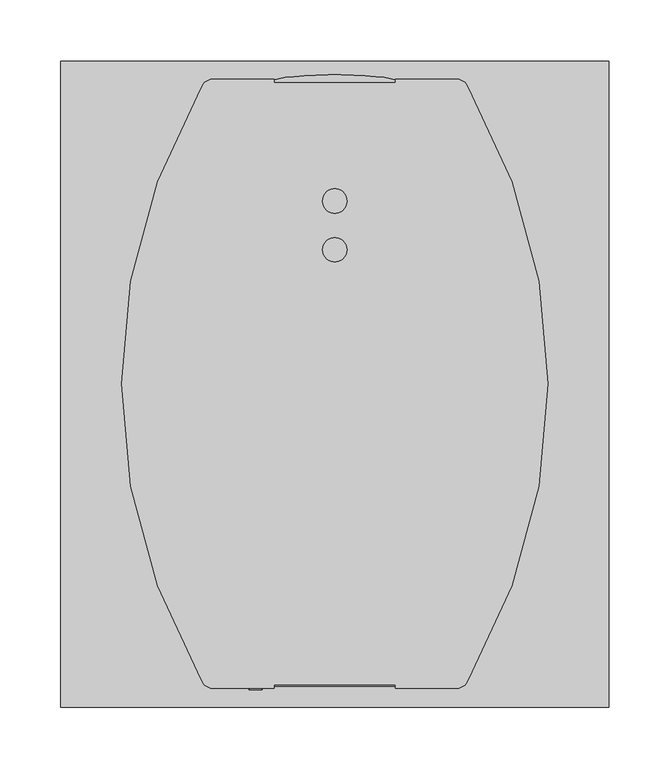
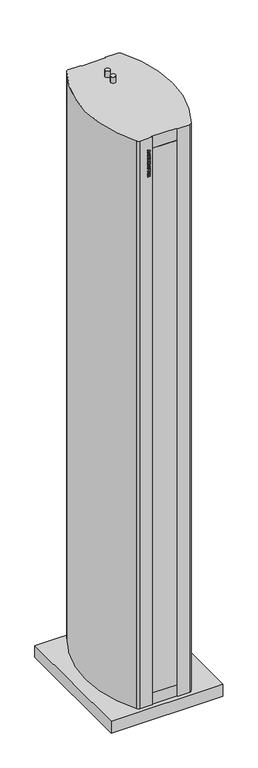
"""IFC4 building model written with IfcOpenShell, lengths in millimetres: proxy geometry, ADSK_Завеса дизайнерская_Водяная : KVC-S25W45-31."""

from ifc_helpers import new_model, si_unit, point, frame, origin, origin_with_axes, place, context, project, spatial, polyline, circle_curve, ellipse_curve, trimmed, outline, extrude, faceted_brep, source, transform, mapped, element, save
from ifc_brep_helpers import plane_surface, cylinder_surface, extruded_surface, advanced_brep


def mechanical_equipment_2b375cc0(model_context):
    return source(origin(), model_context, "Body", "SolidModel", [
        extrude(outline(polyline([(2300.0784314, -70.0), (2300.0784314, -60.0), (2303.2156863, -60.0), (2303.2156863, -61.7647059), (2304.9865196, -63.7745098), (2306.8186275, -60.0), (2310.6666667, -60.0), (2307.192402, -66.2775735), (2310.4705882, -70.0), (2306.1997549, -70.0), (2303.2156863, -66.2224265), (2303.2156863, -70.0), (2300.0784314, -70.0)])), frame((0.0, -251.0, 0.0), z_axis=(0.0, 1.0, 0.0), x_axis=(0.0, 0.0, 1.0)), (0.0, 0.0, 1.0), 1.0),
        extrude(outline(polyline([(2317.6642157, -61.5686275), (2318.1176471, -60.0), (2321.4509804, -60.0), (2318.0778186, -70.0), (2314.0398284, -70.0), (2310.6666667, -60.0), (2314.0, -60.0), (2314.4319853, -61.5686275), (2317.6642157, -61.5686275)]), holes=[polyline([(2317.0698529, -63.9215686), (2315.0814951, -63.9215686), (2316.0588235, -67.4540441), (2317.0698529, -63.9215686)])]), frame((0.0, -251.0, 0.0), z_axis=(0.0, 1.0, 0.0), x_axis=(0.0, 0.0, 1.0)), (0.0, 0.0, 1.0), 1.0),
        extrude(outline(polyline([(2322.4313725, -70.0), (2322.4313725, -60.0), (2330.2745098, -60.0), (2330.2745098, -62.3529412), (2325.5686275, -62.3529412), (2325.5686275, -70.0), (2322.4313725, -70.0)])), frame((0.0, -251.0, 0.0), z_axis=(0.0, 1.0, 0.0), x_axis=(0.0, 0.0, 1.0)), (0.0, 0.0, 1.0), 1.0),
        extrude(outline(polyline([(2337.6642157, -61.5686275), (2338.1176471, -60.0), (2341.4509804, -60.0), (2338.0778186, -70.0), (2334.0398284, -70.0), (2330.6666667, -60.0), (2334.0, -60.0), (2334.4319853, -61.5686275), (2337.6642157, -61.5686275)]), holes=[polyline([(2337.0698529, -63.9215686), (2335.0814951, -63.9215686), (2336.0588235, -67.4540441), (2337.0698529, -63.9215686)])]), frame((0.0, -251.0, 0.0), z_axis=(0.0, 1.0, 0.0), x_axis=(0.0, 0.0, 1.0)), (0.0, 0.0, 1.0), 1.0),
        extrude(outline(polyline([(2341.8431373, -63.3394608), (2342.9491422, -60.8026961), (2346.4601716, -59.8039216), (2348.8560049, -60.2297794), (2350.3342525, -61.4813113), (2350.8627451, -63.28125), (2350.4675245, -64.7870711), (2349.2022059, -65.9129902), (2346.3223039, -66.8106618), (2346.1905637, -68.4313725), (2346.9641544, -68.1050858), (2347.3333333, -67.0588235), (2350.4705882, -67.2395833), (2349.2925858, -69.4883578), (2346.4172794, -70.1960784), (2343.9969363, -69.8039216), (2342.6749387, -68.7285539), (2342.2352941, -67.276348), (2343.1023284, -65.3492647), (2345.9761029, -64.1237745), (2347.7254902, -62.8186275), (2347.4114583, -62.0818015), (2346.5183824, -61.7647059), (2345.3204657, -62.3958333), (2344.9803922, -63.5294118), (2341.8431373, -63.3394608)])), frame((0.0, -251.0, 0.0), z_axis=(0.0, 1.0, 0.0), x_axis=(0.0, 0.0, 1.0)), (0.0, 0.0, 1.0), 1.0),
        extrude(outline(polyline([(2352.4313725, -70.0), (2352.4313725, -60.0), (2355.5686275, -60.0), (2355.5686275, -64.1176471), (2358.9019608, -64.1176471), (2358.9019608, -60.0), (2362.0392157, -60.0), (2362.0392157, -70.0), (2358.9019608, -70.0), (2358.9019608, -66.4705882), (2355.5686275, -66.4705882), (2355.5686275, -70.0), (2352.4313725, -70.0)])), frame((0.0, -251.0, 0.0), z_axis=(0.0, 1.0, 0.0), x_axis=(0.0, 0.0, 1.0)), (0.0, 0.0, 1.0), 1.0),
        extrude(outline(polyline([(2364.0, -70.0), (2364.0, -60.0), (2366.9411765, -60.0), (2366.9411765, -65.4901961), (2370.6666667, -60.0), (2373.6078431, -60.0), (2373.6078431, -70.0), (2370.6666667, -70.0), (2370.6666667, -64.4730392), (2366.9197304, -70.0), (2364.0, -70.0)])), frame((0.0, -251.0, 0.0), z_axis=(0.0, 1.0, 0.0), x_axis=(0.0, 0.0, 1.0)), (0.0, 0.0, 1.0), 1.0),
        extrude(outline(polyline([(-60.0, -251.0), (-70.0, -251.0), (-70.0, -250.0), (-60.0, -250.0), (-60.0, -251.0)])), frame((0.0, 0.0, 2375.7647059), z_axis=(0.0, 0.0, 1.0), x_axis=(1.0, 0.0, 0.0)), (0.0, 0.0, 1.0), 3.1372549),
        extrude(outline(polyline([(2381.0588235, -70.0), (2381.0588235, -60.0), (2384.1960784, -60.0), (2384.1960784, -61.7647059), (2385.9669118, -63.7745098), (2387.7990196, -60.0), (2391.6470588, -60.0), (2388.1727941, -66.2775735), (2391.4509804, -70.0), (2387.1801471, -70.0), (2384.1960784, -66.2224265), (2384.1960784, -70.0), (2381.0588235, -70.0)])), frame((0.0, -251.0, 0.0), z_axis=(0.0, 1.0, 0.0), x_axis=(0.0, 0.0, 1.0)), (0.0, 0.0, 1.0), 1.0),
        extrude(outline(polyline([(2392.2352941, -64.9938725), (2392.9261642, -62.0603554), (2394.7291667, -60.346201), (2397.5386029, -59.8039216), (2400.3250613, -60.4304534), (2402.036152, -62.1859681), (2402.627451, -65.0765931), (2401.2732843, -68.8495711), (2397.4129902, -70.1960784), (2393.6032475, -68.8250613), (2392.2352941, -64.9938725)]), holes=[polyline([(2395.372549, -64.9938725), (2395.9301471, -67.1813725), (2397.4068627, -67.8431373), (2398.9295343, -67.1920956), (2399.4901961, -65.1286765), (2398.9525123, -62.8048407), (2397.4344363, -62.1568627), (2395.9270833, -62.8186275), (2395.372549, -64.9938725)])]), frame((0.0, -251.0, 0.0), z_axis=(0.0, 1.0, 0.0), x_axis=(0.0, 0.0, 1.0)), (0.0, 0.0, 1.0), 1.0),
        extrude(outline(polyline([(2403.4117647, -70.0), (2407.1280637, -60.0), (2410.4583333, -60.0), (2414.1960784, -70.0), (2410.8627451, -70.0), (2408.8039216, -62.8033088), (2406.7420343, -70.0), (2403.4117647, -70.0)])), frame((0.0, -251.0, 0.0), z_axis=(0.0, 1.0, 0.0), x_axis=(0.0, 0.0, 1.0)), (0.0, 0.0, 1.0), 1.0),
        extrude(outline(polyline([(225.0, 265.0), (225.0, -265.0), (-225.0, -265.0), (-225.0, 265.0), (225.0, 265.0)])), origin_with_axes(), (0.0, 0.0, 1.0), 50.0),
        advanced_brep(
        [(-50.0, 250.0, 2464.0), (-100.0, 250.0, 2464.0), (-109.6523684, 242.6137681, 2464.0), (-109.6523684, -242.6137681, 2464.0), (-100.0, -250.0, 2464.0), (-50.0, -250.0, 2464.0), (-50.0, -247.0, 2464.0), (50.0, -247.0, 2464.0), (50.0, -250.0, 2464.0), (100.0, -250.0, 2464.0), (109.6523684, -242.6137681, 2464.0), (109.6523684, 242.6137681, 2464.0), (100.0, 250.0, 2464.0), (50.0, 250.0, 2464.0), (50.0, 247.0, 2464.0), (-50.0, 247.0, 2464.0), (10.0, 150.0, 2464.0), (-10.0, 150.0, 2464.0), (10.0, 110.0, 2464.0), (-10.0, 110.0, 2464.0), (-50.0, 250.0, 50.0), (-50.0, 247.0, 50.0), (50.0, 247.0, 50.0), (50.0, 250.0, 50.0), (100.0, 250.0, 50.0), (109.6523684, 242.6137681, 50.0), (109.6523684, -242.6137681, 50.0), (100.0, -250.0, 50.0), (50.0, -250.0, 50.0), (50.0, -247.0, 50.0), (-50.0, -247.0, 50.0), (-50.0, -250.0, 50.0), (-100.0, -250.0, 50.0), (-109.6523684, -242.6137681, 50.0), (-109.6523684, 242.6137681, 50.0), (-100.0, 250.0, 50.0), (-10.0, 150.0, 2489.0), (10.0, 150.0, 2489.0), (-10.0, 110.0, 2489.0), (10.0, 110.0, 2489.0)],
        [
            (0, 1),
            (1, 2, circle_curve(frame((-100.0, 240.0, 2464.0), z_axis=(0.0, 0.0, 1.0), x_axis=(1.0, 0.0, 0.0)), 10.0)),
            (2, 3, circle_curve(frame((308.0454594, 0.0, 2464.0), z_axis=(0.0, 0.0, 1.0), x_axis=(1.0, 0.0, 0.0)), 483.0454594)),
            (3, 4, circle_curve(frame((-100.0, -240.0, 2464.0), z_axis=(0.0, 0.0, 1.0), x_axis=(1.0, 0.0, 0.0)), 10.0)),
            (4, 5),
            (5, 6),
            (6, 7),
            (7, 8),
            (8, 9),
            (9, 10, circle_curve(frame((100.0, -240.0, 2464.0), z_axis=(0.0, 0.0, 1.0), x_axis=(1.0, 0.0, 0.0)), 10.0)),
            (10, 11, circle_curve(frame((-308.0454594, 0.0, 2464.0), z_axis=(0.0, 0.0, 1.0), x_axis=(1.0, 0.0, 0.0)), 483.0454594)),
            (11, 12, circle_curve(frame((100.0, 240.0, 2464.0), z_axis=(0.0, 0.0, 1.0), x_axis=(1.0, 0.0, 0.0)), 10.0)),
            (12, 13),
            (13, 14),
            (14, 15),
            (15, 0),
            (16, 17, circle_curve(frame((0.0, 150.0, 2464.0), z_axis=(0.0, 0.0, -1.0), x_axis=(1.0, 0.0, 0.0)), 10.0)),
            (17, 16, circle_curve(frame((0.0, 150.0, 2464.0), z_axis=(0.0, 0.0, -1.0), x_axis=(1.0, 0.0, 0.0)), 10.0)),
            (18, 19, circle_curve(frame((0.0, 110.0, 2464.0), z_axis=(0.0, 0.0, -1.0), x_axis=(1.0, 0.0, 0.0)), 10.0)),
            (19, 18, circle_curve(frame((0.0, 110.0, 2464.0), z_axis=(0.0, 0.0, -1.0), x_axis=(1.0, 0.0, 0.0)), 10.0)),
            (20, 21),
            (21, 22),
            (22, 23),
            (23, 24),
            (24, 25, circle_curve(frame((100.0, 240.0, 50.0), z_axis=(0.0, 0.0, -1.0), x_axis=(1.0, 0.0, 0.0)), 10.0)),
            (25, 26, circle_curve(frame((-308.0454594, 0.0, 50.0), z_axis=(0.0, 0.0, -1.0), x_axis=(1.0, 0.0, 0.0)), 483.0454594)),
            (26, 27, circle_curve(frame((100.0, -240.0, 50.0), z_axis=(0.0, 0.0, -1.0), x_axis=(1.0, 0.0, 0.0)), 10.0)),
            (27, 28),
            (28, 29),
            (29, 30),
            (30, 31),
            (31, 32),
            (32, 33, circle_curve(frame((-100.0, -240.0, 50.0), z_axis=(0.0, 0.0, -1.0), x_axis=(1.0, 0.0, 0.0)), 10.0)),
            (33, 34, circle_curve(frame((308.0454594, 0.0, 50.0), z_axis=(0.0, 0.0, -1.0), x_axis=(1.0, 0.0, 0.0)), 483.0454594)),
            (34, 35, circle_curve(frame((-100.0, 240.0, 50.0), z_axis=(0.0, 0.0, -1.0), x_axis=(1.0, 0.0, 0.0)), 10.0)),
            (35, 20),
            (0, 20),
            (35, 1),
            (34, 2),
            (33, 3),
            (32, 4),
            (8, 28),
            (27, 9),
            (31, 5),
            (30, 6),
            (29, 7),
            (12, 24),
            (23, 13),
            (22, 14),
            (21, 15),
            (36, 37, circle_curve(frame((0.0, 150.0, 2489.0), z_axis=(0.0, 0.0, 1.0), x_axis=(1.0, 0.0, 0.0)), 10.0)),
            (37, 36, circle_curve(frame((0.0, 150.0, 2489.0), z_axis=(0.0, 0.0, 1.0), x_axis=(1.0, 0.0, 0.0)), 10.0)),
            (38, 39, circle_curve(frame((0.0, 110.0, 2489.0), z_axis=(0.0, 0.0, 1.0), x_axis=(1.0, 0.0, 0.0)), 10.0)),
            (39, 38, circle_curve(frame((0.0, 110.0, 2489.0), z_axis=(0.0, 0.0, 1.0), x_axis=(1.0, 0.0, 0.0)), 10.0)),
            (36, 17),
            (16, 37),
            (38, 19),
            (18, 39),
            (26, 10),
            (25, 11),
        ],
        [
            plane_surface(frame((-93.2688019, 250.0, 2464.0), z_axis=(0.0, 0.0, 1.0), x_axis=(-1.0, 0.0, 0.0))),
            plane_surface(frame((-93.2688019, 250.0, 50.0), z_axis=(0.0, 0.0, -1.0), x_axis=(1.0, 0.0, 0.0))),
            plane_surface(frame((-50.0, 250.0, 2464.0), z_axis=(0.0, 1.0, 0.0), x_axis=(0.0, 0.0, -1.0))),
            cylinder_surface(frame((-100.0, 240.0, 50.0), z_axis=(0.0, 0.0, 1.0), x_axis=(1.0, 0.0, 0.0)), 10.0),
            cylinder_surface(frame((308.0454594, 0.0, 50.0), z_axis=(0.0, 0.0, 1.0), x_axis=(1.0, 0.0, 0.0)), 483.0454594),
            cylinder_surface(frame((-100.0, -240.0, 50.0), z_axis=(0.0, 0.0, 1.0), x_axis=(1.0, 0.0, 0.0)), 10.0),
            plane_surface(frame((50.0, -250.0, 2464.0), z_axis=(0.0, -1.0, 0.0), x_axis=(0.0, 0.0, -1.0))),
            plane_surface(frame((-100.0, -250.0, 2464.0), z_axis=(0.0, -1.0, 0.0), x_axis=(0.0, 0.0, -1.0))),
            plane_surface(frame((-50.0, -250.0, 2464.0), z_axis=(1.0, 0.0, 0.0), x_axis=(0.0, 0.0, -1.0))),
            plane_surface(frame((-50.0, -247.0, 2464.0), z_axis=(0.0, -1.0, 0.0), x_axis=(0.0, 0.0, -1.0))),
            plane_surface(frame((50.0, -247.0, 2464.0), z_axis=(-1.0, 0.0, 0.0), x_axis=(0.0, 0.0, -1.0))),
            plane_surface(frame((100.0, 250.0, 2464.0), z_axis=(0.0, 1.0, 0.0), x_axis=(0.0, 0.0, -1.0))),
            plane_surface(frame((50.0, 250.0, 2464.0), z_axis=(-1.0, 0.0, 0.0), x_axis=(0.0, 0.0, -1.0))),
            plane_surface(frame((50.0, 247.0, 2464.0), z_axis=(0.0, 1.0, 0.0), x_axis=(0.0, 0.0, -1.0))),
            plane_surface(frame((-50.0, 247.0, 2464.0), z_axis=(1.0, 0.0, 0.0), x_axis=(0.0, 0.0, -1.0))),
            plane_surface(frame((10.0, 150.0, 2489.0), z_axis=(0.0, 0.0, 1.0), x_axis=(0.0, 1.0, 0.0))),
            cylinder_surface(frame((0.0, 150.0, 2464.0), z_axis=(0.0, 0.0, 1.0), x_axis=(1.0, 0.0, 0.0)), 10.0),
            cylinder_surface(frame((0.0, 110.0, 0.0), z_axis=(0.0, 0.0, 1.0), x_axis=(1.0, 0.0, 0.0)), 10.0),
            cylinder_surface(frame((100.0, -240.0, 50.0), z_axis=(0.0, 0.0, 1.0), x_axis=(1.0, 0.0, 0.0)), 10.0),
            cylinder_surface(frame((-308.0454594, 0.0, 50.0), z_axis=(0.0, 0.0, 1.0), x_axis=(1.0, 0.0, 0.0)), 483.0454594),
            cylinder_surface(frame((100.0, 240.0, 50.0), z_axis=(0.0, 0.0, 1.0), x_axis=(1.0, 0.0, 0.0)), 10.0),
        ],
        [
            (0, [[1, 2, 3, 4, 5, 6, 7, 8, 9, 10, 11, 12, 13, 14, 15, 16], [17, 18], [19, 20]]),
            (1, [[21, 22, 23, 24, 25, 26, 27, 28, 29, 30, 31, 32, 33, 34, 35, 36]]),
            (2, [[-1, 37, -36, 38]]),
            (3, [[-2, -38, -35, 39]]),
            (4, [[-3, -39, -34, 40]]),
            (5, [[-4, -40, -33, 41]]),
            (6, [[-9, 42, -28, 43]]),
            (7, [[-5, -41, -32, 44]]),
            (8, [[-6, -44, -31, 45]]),
            (9, [[-7, -45, -30, 46]]),
            (10, [[-8, -46, -29, -42]]),
            (11, [[-13, 47, -24, 48]]),
            (12, [[-14, -48, -23, 49]]),
            (13, [[-15, -49, -22, 50]]),
            (14, [[-16, -50, -21, -37]]),
            (15, [[51, 52]]),
            (15, [[53, 54]]),
            (16, [[-51, 55, -17, 56]]),
            (16, [[-52, -56, -18, -55]]),
            (17, [[-53, 57, -19, 58]]),
            (17, [[-54, -58, -20, -57]]),
            (18, [[-10, -43, -27, 59]]),
            (19, [[-11, -59, -26, 60]]),
            (20, [[-12, -60, -25, -47]]),
        ],
    ),
        faceted_brep([(50.0, -247.0, 2414.0), (-50.0, -247.0, 2414.0), (-50.0, -248.5, 2414.0), (50.0, -248.5, 2414.0), (50.0, -247.0, 100.0), (50.0, -248.5, 100.0), (-50.0, -248.5, 100.0), (-50.0, -247.0, 100.0)], [[[0, 1, 2, 3]], [[4, 5, 6, 7]], [[1, 0, 4, 7]], [[2, 1, 7, 6]], [[3, 2, 6, 5]], [[0, 3, 5, 4]]]),
        advanced_brep(
        [(-50.0, 248.5, 2414.0), (-50.0, 247.0, 2414.0), (50.0, 247.0, 2414.0), (50.0, 248.5, 2414.0), (-50.0, 248.5, 100.0), (50.0, 248.5, 100.0), (50.0, 247.0, 100.0), (-50.0, 247.0, 100.0)],
        [
            (0, 1),
            (1, 2),
            (2, 3),
            (3, 0, ellipse_curve(frame((0.0, 248.5, 2414.0), z_axis=(0.0, 0.0, 1.0), x_axis=(-1.0, 0.0, 0.0)), 50.0, 5.0)),
            (4, 5, ellipse_curve(frame((0.0, 248.5, 100.0), z_axis=(0.0, 0.0, -1.0), x_axis=(-1.0, 0.0, 0.0)), 50.0, 5.0)),
            (5, 6),
            (6, 7),
            (7, 4),
            (0, 4),
            (7, 1),
            (6, 2),
            (5, 3),
        ],
        [
            plane_surface(frame((-50.0, -247.0, 2414.0), z_axis=(0.0, 0.0, 1.0), x_axis=(-1.0, 0.0, 0.0))),
            plane_surface(frame((-50.0, -247.0, 100.0), z_axis=(0.0, 0.0, -1.0), x_axis=(1.0, 0.0, 0.0))),
            plane_surface(frame((-50.0, 248.5, 2414.0), z_axis=(-1.0, 0.0, 0.0), x_axis=(0.0, 0.0, -1.0))),
            plane_surface(frame((-50.0, 247.0, 2414.0), z_axis=(0.0, -1.0, 0.0), x_axis=(0.0, 0.0, -1.0))),
            plane_surface(frame((50.0, 247.0, 2414.0), z_axis=(1.0, 0.0, 0.0), x_axis=(0.0, 0.0, -1.0))),
            extruded_surface(trimmed(ellipse_curve(frame((0.0, 248.5, -2314.0), z_axis=(0.0, 0.0, 1.0), x_axis=(-1.0, 0.0, 0.0)), 50.0, 5.0), [point((50.0, 248.5, -2314.0))], [point((-50.0, 248.5, -2314.0))], True, "CARTESIAN"), (0.0, 0.0, 2314.0), 2314.0),
        ],
        [
            (0, [[1, 2, 3, 4]]),
            (1, [[5, 6, 7, 8]]),
            (2, [[-1, 9, -8, 10]]),
            (3, [[-2, -10, -7, 11]]),
            (4, [[-3, -11, -6, 12]]),
            (5, [[-4, -12, -5, -9]]),
        ],
    ),
    ])


if __name__ == "__main__":
    model = new_model("IFC4")
    model_context = context("Model", 3, world=origin())
    ifc_project = project(units=[si_unit("LENGTHUNIT", "METRE", prefix="MILLI")], contexts=[model_context])
    site = spatial("IfcSite", under=ifc_project)
    building = spatial("IfcBuilding", under=site)
    placement = place(None, origin())
    mechanical_equipment_shape = mechanical_equipment_2b375cc0(model_context)
    element("IfcBuildingElementProxy", 1, Name="ADSK_Завеса дизайнерская_Водяная : KVC-S25W45-31", ObjectType="ADSK_Завеса дизайнерская_Водяная : KVC-S25W45-31", at=placement, inside=building, context=model_context, shape_type="MappedRepresentation", body=[
        mapped(mechanical_equipment_shape, transform((0.0, 0.0, 0.0), x_axis=(1.0, 0.0, 0.0), y_axis=(0.0, 1.0, 0.0), z_axis=(0.0, 0.0, 1.0))),
    ])
    save(model, "model.ifc")
